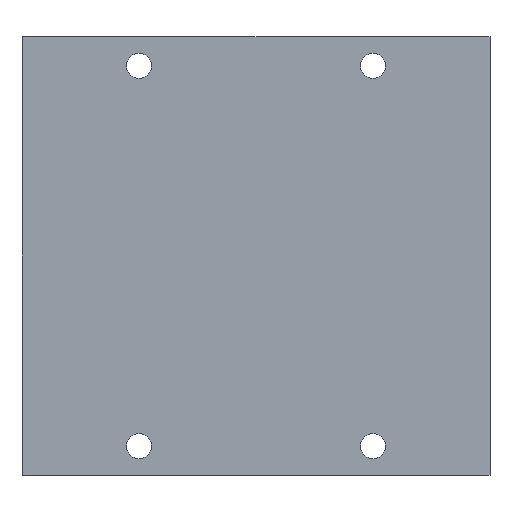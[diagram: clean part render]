
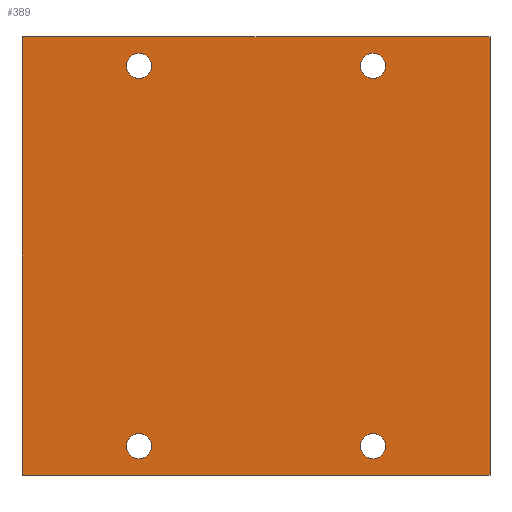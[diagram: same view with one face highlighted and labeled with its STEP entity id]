
A CAD part, front view. The second image highlights one B-rep face of the part: STEP entity #389.
In plain terms, the highlighted planar face has unit normal (0, -1, 0).
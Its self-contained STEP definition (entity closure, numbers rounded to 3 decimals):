
#7 = CARTESIAN_POINT ( 'NONE',  ( -20., 0., 34.65 ) ) ;
#14 = CIRCLE ( 'NONE', #911, 2.15 ) ;
#15 = DIRECTION ( 'NONE',  ( -1., 0., 0. ) ) ;
#16 = FACE_BOUND ( 'NONE', #45, .T. ) ;
#19 = ORIENTED_EDGE ( 'NONE', *, *, #863, .F. ) ;
#20 = CARTESIAN_POINT ( 'NONE',  ( 20., 0., 34.65 ) ) ;
#26 = EDGE_CURVE ( 'NONE', #698, #1231, #14, .T. ) ;
#35 = ORIENTED_EDGE ( 'NONE', *, *, #467, .T. ) ;
#40 = ORIENTED_EDGE ( 'NONE', *, *, #26, .T. ) ;
#44 = EDGE_CURVE ( 'NONE', #839, #53, #1153, .T. ) ;
#45 = EDGE_LOOP ( 'NONE', ( #1222, #527 ) ) ;
#47 = VECTOR ( 'NONE', #15, 1000. ) ;
#50 = DIRECTION ( 'NONE',  ( 0., 0., 1. ) ) ;
#53 = VERTEX_POINT ( 'NONE', #925 ) ;
#73 = AXIS2_PLACEMENT_3D ( 'NONE', #1064, #305, #977 ) ;
#77 = CARTESIAN_POINT ( 'NONE',  ( 40., 0., 37.5 ) ) ;
#112 = LINE ( 'NONE', #968, #47 ) ;
#120 = ORIENTED_EDGE ( 'NONE', *, *, #250, .F. ) ;
#133 = CARTESIAN_POINT ( 'NONE',  ( -20., 0., 32.5 ) ) ;
#134 = VERTEX_POINT ( 'NONE', #1230 ) ;
#143 = CARTESIAN_POINT ( 'NONE',  ( -40., 0., 37.5 ) ) ;
#164 = DIRECTION ( 'NONE',  ( 0., 1., 0. ) ) ;
#170 = DIRECTION ( 'NONE',  ( 0., 1., 0. ) ) ;
#179 = ORIENTED_EDGE ( 'NONE', *, *, #419, .F. ) ;
#181 = DIRECTION ( 'NONE',  ( 0., 0., 1. ) ) ;
#213 = VERTEX_POINT ( 'NONE', #588 ) ;
#216 = VERTEX_POINT ( 'NONE', #947 ) ;
#231 = EDGE_CURVE ( 'NONE', #134, #688, #1108, .T. ) ;
#233 = DIRECTION ( 'NONE',  ( 0., 1., 0. ) ) ;
#239 = CARTESIAN_POINT ( 'NONE',  ( -40., 0., 37.5 ) ) ;
#240 = CIRCLE ( 'NONE', #992, 2.15 ) ;
#242 = CIRCLE ( 'NONE', #659, 2.15 ) ;
#247 = EDGE_CURVE ( 'NONE', #216, #260, #388, .T. ) ;
#248 = VERTEX_POINT ( 'NONE', #790 ) ;
#250 = EDGE_CURVE ( 'NONE', #53, #248, #112, .T. ) ;
#255 = DIRECTION ( 'NONE',  ( 0., -1., 0. ) ) ;
#260 = VERTEX_POINT ( 'NONE', #20 ) ;
#305 = DIRECTION ( 'NONE',  ( 0., 1., 0. ) ) ;
#306 = EDGE_LOOP ( 'NONE', ( #35, #994 ) ) ;
#320 = VERTEX_POINT ( 'NONE', #818 ) ;
#345 = EDGE_CURVE ( 'NONE', #1231, #698, #880, .T. ) ;
#360 = AXIS2_PLACEMENT_3D ( 'NONE', #133, #233, #906 ) ;
#367 = CARTESIAN_POINT ( 'NONE',  ( -20., 0., -32.5 ) ) ;
#385 = AXIS2_PLACEMENT_3D ( 'NONE', #726, #255, #1012 ) ;
#388 = CIRCLE ( 'NONE', #997, 2.15 ) ;
#389 = ADVANCED_FACE ( 'NONE', ( #505, #16, #633, #853, #732 ), #641, .T. ) ;
#394 = CARTESIAN_POINT ( 'NONE',  ( 20., 0., 32.5 ) ) ;
#398 = DIRECTION ( 'NONE',  ( 0., 1., 0. ) ) ;
#406 = CARTESIAN_POINT ( 'NONE',  ( 20., 0., 32.5 ) ) ;
#419 = EDGE_CURVE ( 'NONE', #248, #440, #681, .T. ) ;
#423 = AXIS2_PLACEMENT_3D ( 'NONE', #406, #1082, #721 ) ;
#440 = VERTEX_POINT ( 'NONE', #143 ) ;
#463 = ORIENTED_EDGE ( 'NONE', *, *, #44, .F. ) ;
#467 = EDGE_CURVE ( 'NONE', #320, #213, #242, .T. ) ;
#505 = FACE_BOUND ( 'NONE', #613, .T. ) ;
#508 = DIRECTION ( 'NONE',  ( 0., 0., 1. ) ) ;
#527 = ORIENTED_EDGE ( 'NONE', *, *, #231, .T. ) ;
#560 = CARTESIAN_POINT ( 'NONE',  ( -20., 0., 32.5 ) ) ;
#588 = CARTESIAN_POINT ( 'NONE',  ( -20., 0., -34.65 ) ) ;
#613 = EDGE_LOOP ( 'NONE', ( #675, #784 ) ) ;
#633 = FACE_BOUND ( 'NONE', #809, .T. ) ;
#641 = PLANE ( 'NONE',  #385 ) ;
#659 = AXIS2_PLACEMENT_3D ( 'NONE', #367, #164, #668 ) ;
#665 = DIRECTION ( 'NONE',  ( 0., 1., 0. ) ) ;
#667 = DIRECTION ( 'NONE',  ( 0., 1., 0. ) ) ;
#668 = DIRECTION ( 'NONE',  ( 0., 0., 1. ) ) ;
#675 = ORIENTED_EDGE ( 'NONE', *, *, #750, .T. ) ;
#681 = LINE ( 'NONE', #729, #1084 ) ;
#688 = VERTEX_POINT ( 'NONE', #970 ) ;
#698 = VERTEX_POINT ( 'NONE', #7 ) ;
#721 = DIRECTION ( 'NONE',  ( 0., 0., 1. ) ) ;
#726 = CARTESIAN_POINT ( 'NONE',  ( 0., 0., 0. ) ) ;
#729 = CARTESIAN_POINT ( 'NONE',  ( -40., 0., 37.5 ) ) ;
#732 = FACE_OUTER_BOUND ( 'NONE', #1219, .T. ) ;
#741 = LINE ( 'NONE', #239, #878 ) ;
#750 = EDGE_CURVE ( 'NONE', #260, #216, #900, .T. ) ;
#784 = ORIENTED_EDGE ( 'NONE', *, *, #247, .T. ) ;
#790 = CARTESIAN_POINT ( 'NONE',  ( -40., 0., -37.5 ) ) ;
#804 = CIRCLE ( 'NONE', #816, 2.15 ) ;
#808 = CARTESIAN_POINT ( 'NONE',  ( 40., 0., 37.5 ) ) ;
#809 = EDGE_LOOP ( 'NONE', ( #40, #824 ) ) ;
#816 = AXIS2_PLACEMENT_3D ( 'NONE', #934, #667, #1115 ) ;
#818 = CARTESIAN_POINT ( 'NONE',  ( -20., 0., -30.35 ) ) ;
#820 = DIRECTION ( 'NONE',  ( 1., 0., 0. ) ) ;
#824 = ORIENTED_EDGE ( 'NONE', *, *, #345, .T. ) ;
#839 = VERTEX_POINT ( 'NONE', #808 ) ;
#853 = FACE_BOUND ( 'NONE', #306, .T. ) ;
#863 = EDGE_CURVE ( 'NONE', #440, #839, #741, .T. ) ;
#878 = VECTOR ( 'NONE', #820, 1000. ) ;
#880 = CIRCLE ( 'NONE', #360, 2.15 ) ;
#900 = CIRCLE ( 'NONE', #423, 2.15 ) ;
#906 = DIRECTION ( 'NONE',  ( 0., 0., 1. ) ) ;
#911 = AXIS2_PLACEMENT_3D ( 'NONE', #560, #665, #1114 ) ;
#924 = VECTOR ( 'NONE', #1188, 1000. ) ;
#925 = CARTESIAN_POINT ( 'NONE',  ( 40., 0., -37.5 ) ) ;
#934 = CARTESIAN_POINT ( 'NONE',  ( -20., 0., -32.5 ) ) ;
#947 = CARTESIAN_POINT ( 'NONE',  ( 20., 0., 30.35 ) ) ;
#968 = CARTESIAN_POINT ( 'NONE',  ( -40., 0., -37.5 ) ) ;
#970 = CARTESIAN_POINT ( 'NONE',  ( 20., 0., -30.35 ) ) ;
#977 = DIRECTION ( 'NONE',  ( 0., 0., 1. ) ) ;
#992 = AXIS2_PLACEMENT_3D ( 'NONE', #1109, #170, #181 ) ;
#994 = ORIENTED_EDGE ( 'NONE', *, *, #1133, .T. ) ;
#997 = AXIS2_PLACEMENT_3D ( 'NONE', #394, #398, #508 ) ;
#1012 = DIRECTION ( 'NONE',  ( 0., 0., -1. ) ) ;
#1029 = CARTESIAN_POINT ( 'NONE',  ( -20., 0., 30.35 ) ) ;
#1064 = CARTESIAN_POINT ( 'NONE',  ( 20., 0., -32.5 ) ) ;
#1082 = DIRECTION ( 'NONE',  ( 0., 1., 0. ) ) ;
#1084 = VECTOR ( 'NONE', #50, 1000. ) ;
#1108 = CIRCLE ( 'NONE', #73, 2.15 ) ;
#1109 = CARTESIAN_POINT ( 'NONE',  ( 20., 0., -32.5 ) ) ;
#1114 = DIRECTION ( 'NONE',  ( 0., 0., 1. ) ) ;
#1115 = DIRECTION ( 'NONE',  ( 0., 0., 1. ) ) ;
#1133 = EDGE_CURVE ( 'NONE', #213, #320, #804, .T. ) ;
#1153 = LINE ( 'NONE', #77, #924 ) ;
#1188 = DIRECTION ( 'NONE',  ( 0., 0., -1. ) ) ;
#1191 = EDGE_CURVE ( 'NONE', #688, #134, #240, .T. ) ;
#1219 = EDGE_LOOP ( 'NONE', ( #463, #19, #179, #120 ) ) ;
#1222 = ORIENTED_EDGE ( 'NONE', *, *, #1191, .T. ) ;
#1230 = CARTESIAN_POINT ( 'NONE',  ( 20., 0., -34.65 ) ) ;
#1231 = VERTEX_POINT ( 'NONE', #1029 ) ;
